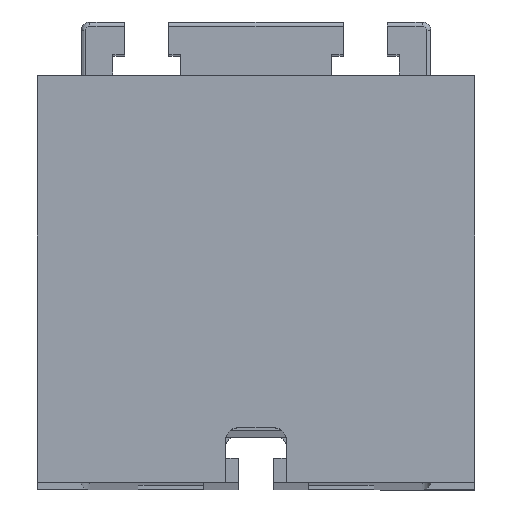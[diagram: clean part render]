
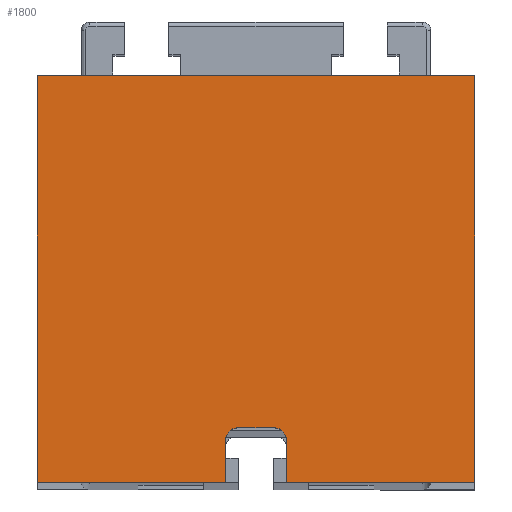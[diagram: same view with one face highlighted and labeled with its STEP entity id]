
A CAD part, top view. The second image highlights one B-rep face of the part: STEP entity #1800.
In plain terms, the highlighted planar face has unit normal (0, 0, 1).
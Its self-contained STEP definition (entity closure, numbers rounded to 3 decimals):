
#125 = CARTESIAN_POINT ( 'NONE',  ( -7., 0., 17. ) ) ;
#149 = AXIS2_PLACEMENT_3D ( 'NONE', #1077, #1557, #4918 ) ;
#288 = VERTEX_POINT ( 'NONE', #735 ) ;
#305 = DIRECTION ( 'NONE',  ( 1., 0., 0. ) ) ;
#322 = CARTESIAN_POINT ( 'NONE',  ( 7., 0., 17. ) ) ;
#432 = CARTESIAN_POINT ( 'NONE',  ( 7., 9.5, 17. ) ) ;
#440 = LINE ( 'NONE', #2316, #555 ) ;
#496 = CARTESIAN_POINT ( 'NONE',  ( -50., 0., 17. ) ) ;
#501 = CARTESIAN_POINT ( 'NONE',  ( 4., 9.5, 17. ) ) ;
#532 = DIRECTION ( 'NONE',  ( 0., 1., 0. ) ) ;
#555 = VECTOR ( 'NONE', #3725, 1000. ) ;
#585 = CARTESIAN_POINT ( 'NONE',  ( 4., 12.5, 17. ) ) ;
#626 = EDGE_CURVE ( 'NONE', #6170, #3188, #4053, .T. ) ;
#630 = ORIENTED_EDGE ( 'NONE', *, *, #866, .T. ) ;
#689 = DIRECTION ( 'NONE',  ( 0., 1., 0. ) ) ;
#735 = CARTESIAN_POINT ( 'NONE',  ( 50., 93., 17. ) ) ;
#843 = CIRCLE ( 'NONE', #1752, 3. ) ;
#866 = EDGE_CURVE ( 'NONE', #2193, #2035, #5125, .T. ) ;
#984 = ORIENTED_EDGE ( 'NONE', *, *, #5703, .T. ) ;
#1077 = CARTESIAN_POINT ( 'NONE',  ( -50., 93., 17. ) ) ;
#1288 = VECTOR ( 'NONE', #5170, 1000. ) ;
#1331 = DIRECTION ( 'NONE',  ( 0., -1., 0. ) ) ;
#1476 = ORIENTED_EDGE ( 'NONE', *, *, #1585, .T. ) ;
#1495 = VERTEX_POINT ( 'NONE', #1774 ) ;
#1557 = DIRECTION ( 'NONE',  ( 0., 0., -1. ) ) ;
#1585 = EDGE_CURVE ( 'NONE', #3322, #2193, #4256, .T. ) ;
#1589 = FACE_OUTER_BOUND ( 'NONE', #3288, .T. ) ;
#1671 = DIRECTION ( 'NONE',  ( 0., -1., 0. ) ) ;
#1752 = AXIS2_PLACEMENT_3D ( 'NONE', #4071, #2250, #305 ) ;
#1774 = CARTESIAN_POINT ( 'NONE',  ( 7., 0., 17. ) ) ;
#1800 = ADVANCED_FACE ( 'NONE', ( #1589 ), #5841, .F. ) ;
#2035 = VERTEX_POINT ( 'NONE', #2070 ) ;
#2070 = CARTESIAN_POINT ( 'NONE',  ( -7., 0., 17. ) ) ;
#2085 = ORIENTED_EDGE ( 'NONE', *, *, #4628, .T. ) ;
#2097 = ORIENTED_EDGE ( 'NONE', *, *, #2110, .T. ) ;
#2110 = EDGE_CURVE ( 'NONE', #288, #3322, #440, .T. ) ;
#2186 = EDGE_CURVE ( 'NONE', #3109, #288, #4861, .T. ) ;
#2193 = VERTEX_POINT ( 'NONE', #5887 ) ;
#2224 = CARTESIAN_POINT ( 'NONE',  ( -4., 12.5, 17. ) ) ;
#2250 = DIRECTION ( 'NONE',  ( 0., 0., -1. ) ) ;
#2266 = VERTEX_POINT ( 'NONE', #5518 ) ;
#2269 = EDGE_CURVE ( 'NONE', #2266, #6170, #843, .T. ) ;
#2316 = CARTESIAN_POINT ( 'NONE',  ( -50., 93., 17. ) ) ;
#2406 = DIRECTION ( 'NONE',  ( 0., 0., -1. ) ) ;
#2495 = CIRCLE ( 'NONE', #4904, 3. ) ;
#2678 = ORIENTED_EDGE ( 'NONE', *, *, #3493, .T. ) ;
#2819 = DIRECTION ( 'NONE',  ( 1., 0., 0. ) ) ;
#2892 = ORIENTED_EDGE ( 'NONE', *, *, #5533, .T. ) ;
#2928 = VECTOR ( 'NONE', #2819, 1000. ) ;
#2948 = ORIENTED_EDGE ( 'NONE', *, *, #2269, .T. ) ;
#3027 = VECTOR ( 'NONE', #4527, 1000. ) ;
#3109 = VERTEX_POINT ( 'NONE', #5716 ) ;
#3170 = LINE ( 'NONE', #322, #4671 ) ;
#3188 = VERTEX_POINT ( 'NONE', #585 ) ;
#3238 = LINE ( 'NONE', #4577, #1288 ) ;
#3288 = EDGE_LOOP ( 'NONE', ( #984, #2085, #2892, #5655, #2097, #1476, #630, #2678, #2948, #4390 ) ) ;
#3322 = VERTEX_POINT ( 'NONE', #5567 ) ;
#3493 = EDGE_CURVE ( 'NONE', #2035, #2266, #3948, .T. ) ;
#3725 = DIRECTION ( 'NONE',  ( -1., 0., 0. ) ) ;
#3852 = VECTOR ( 'NONE', #532, 1000. ) ;
#3948 = LINE ( 'NONE', #125, #4255 ) ;
#4053 = LINE ( 'NONE', #5961, #3027 ) ;
#4071 = CARTESIAN_POINT ( 'NONE',  ( -4., 9.5, 17. ) ) ;
#4152 = VECTOR ( 'NONE', #1331, 1000. ) ;
#4255 = VECTOR ( 'NONE', #689, 1000. ) ;
#4256 = LINE ( 'NONE', #496, #4152 ) ;
#4390 = ORIENTED_EDGE ( 'NONE', *, *, #626, .T. ) ;
#4391 = CARTESIAN_POINT ( 'NONE',  ( 50., 0., 17. ) ) ;
#4527 = DIRECTION ( 'NONE',  ( 1., 0., 0. ) ) ;
#4577 = CARTESIAN_POINT ( 'NONE',  ( -50., 0., 17. ) ) ;
#4628 = EDGE_CURVE ( 'NONE', #5715, #1495, #3170, .T. ) ;
#4671 = VECTOR ( 'NONE', #1671, 1000. ) ;
#4861 = LINE ( 'NONE', #4391, #3852 ) ;
#4904 = AXIS2_PLACEMENT_3D ( 'NONE', #501, #2406, #5325 ) ;
#4918 = DIRECTION ( 'NONE',  ( -1., 0., 0. ) ) ;
#5125 = LINE ( 'NONE', #5619, #2928 ) ;
#5170 = DIRECTION ( 'NONE',  ( 1., 0., 0. ) ) ;
#5325 = DIRECTION ( 'NONE',  ( 1., 0., 0. ) ) ;
#5518 = CARTESIAN_POINT ( 'NONE',  ( -7., 9.5, 17. ) ) ;
#5533 = EDGE_CURVE ( 'NONE', #1495, #3109, #3238, .T. ) ;
#5567 = CARTESIAN_POINT ( 'NONE',  ( -50., 93., 17. ) ) ;
#5619 = CARTESIAN_POINT ( 'NONE',  ( -50., 0., 17. ) ) ;
#5655 = ORIENTED_EDGE ( 'NONE', *, *, #2186, .T. ) ;
#5703 = EDGE_CURVE ( 'NONE', #3188, #5715, #2495, .T. ) ;
#5715 = VERTEX_POINT ( 'NONE', #432 ) ;
#5716 = CARTESIAN_POINT ( 'NONE',  ( 50., 0., 17. ) ) ;
#5841 = PLANE ( 'NONE',  #149 ) ;
#5887 = CARTESIAN_POINT ( 'NONE',  ( -50., 0., 17. ) ) ;
#5961 = CARTESIAN_POINT ( 'NONE',  ( 4., 12.5, 17. ) ) ;
#6170 = VERTEX_POINT ( 'NONE', #2224 ) ;
